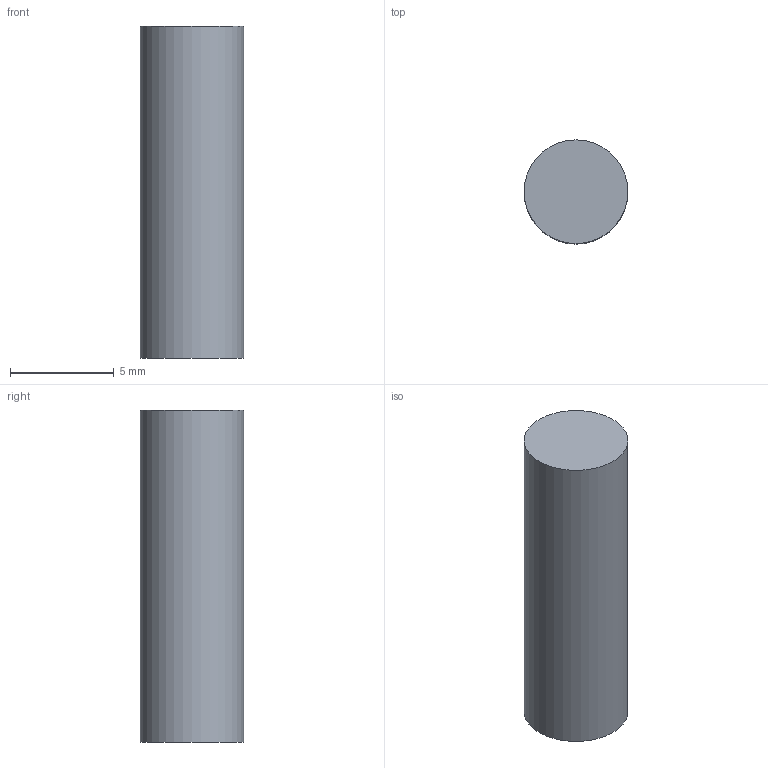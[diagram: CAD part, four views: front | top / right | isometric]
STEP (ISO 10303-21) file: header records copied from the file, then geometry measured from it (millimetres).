
FILE_DESCRIPTION(('Open CASCADE Model'),'2;1');
FILE_NAME('Open CASCADE Shape Model','2026-11-23T20:25:51',('Author'),( 'Open CASCADE'),'Open CASCADE STEP processor 7.9','Open CASCADE 7.9' ,'Unknown');
FILE_SCHEMA(('AUTOMOTIVE_DESIGN { 1 0 10303 214 1 1 1 1 }'));
Length unit declared in the file: millimetre
Products named in the file (1): Open CASCADE STEP translator 7.9 15
Bounding box: 5 x 5 x 16 mm (x, y, z)
Volume: 314.2 mm3; surface area: 290.6 mm2
Topology: 1 solids, 1 shells, 3 faces, 3 edges, 2 vertices
Faces by surface type: plane 2, cylinder 1
Full cylindrical faces by diameter (mm): 5 x1
Entity records: 108 total; most frequent: DIRECTION 19, CARTESIAN_POINT 15, AXIS2_PLACEMENT_3D 6, ORIENTED_EDGE 6, PCURVE 6, DEFINITIONAL_REPRESENTATION 6, LINE 5, VECTOR 5
